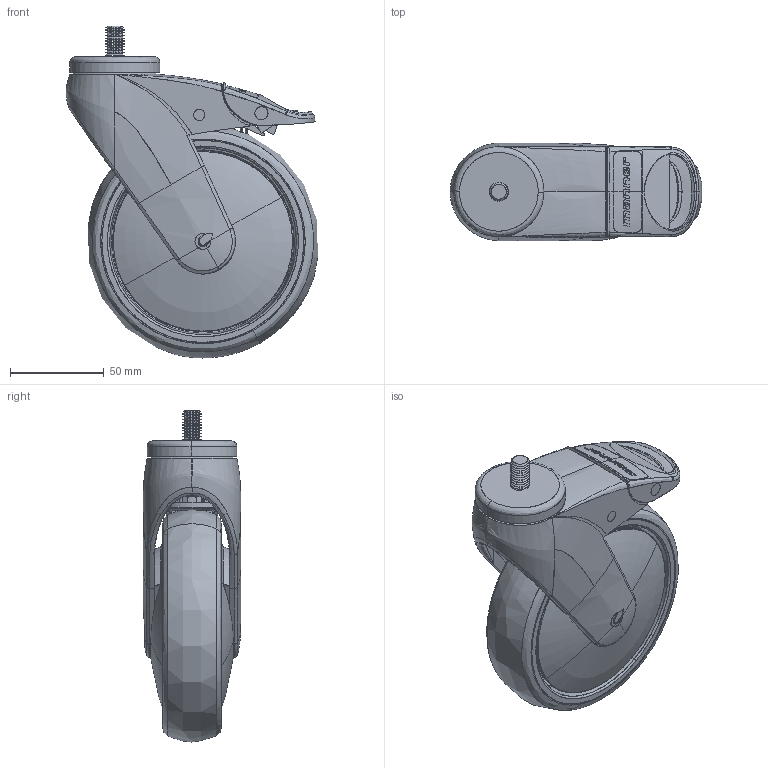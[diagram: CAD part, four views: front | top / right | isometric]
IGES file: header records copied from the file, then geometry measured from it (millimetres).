
Start section: SolidWorks IGES file using analytic representation for surfaces
Global section: file name: S:\Tyokansio\VL\301651_IGES.IGS; native system: SolidWorks 2011; preprocessor: SolidWorks 2011; author: VilleLa; date: 110610.141704; units: millimetre
Bounding box: 134.34 x 52 x 177.2 mm (x, y, z)
Surface area: 114609.4 mm2 (no closed solid volume)
Topology: 0 solids, 0 shells, 653 faces, 10603 edges, 10588 vertices
Faces by surface type: bspline 476, revolution 177
